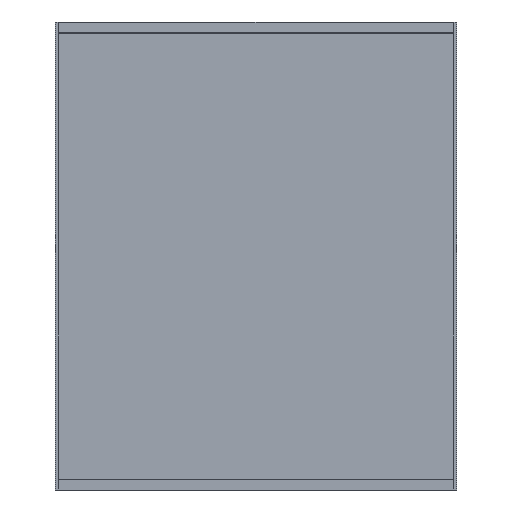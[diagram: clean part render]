
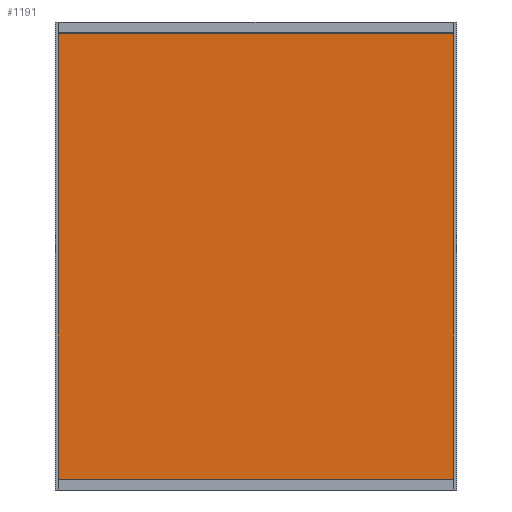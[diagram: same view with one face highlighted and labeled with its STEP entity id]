
A CAD part, front view. The second image highlights one B-rep face of the part: STEP entity #1191.
In plain terms, the highlighted planar face has unit normal (0, -1, 0).
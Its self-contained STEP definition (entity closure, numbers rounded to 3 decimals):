
#66=PLANE('',#1293);
#129=FACE_OUTER_BOUND('',#199,.T.);
#199=EDGE_LOOP('',(#1006,#1007,#1008,#1009));
#319=LINE('',#1857,#457);
#322=LINE('',#1863,#460);
#323=LINE('',#1865,#461);
#324=LINE('',#1866,#462);
#457=VECTOR('',#1539,10.);
#460=VECTOR('',#1544,10.);
#461=VECTOR('',#1545,10.);
#462=VECTOR('',#1546,10.);
#589=VERTEX_POINT('',#1854);
#590=VERTEX_POINT('',#1856);
#592=VERTEX_POINT('',#1862);
#593=VERTEX_POINT('',#1864);
#731=EDGE_CURVE('',#589,#590,#319,.T.);
#734=EDGE_CURVE('',#592,#589,#322,.T.);
#735=EDGE_CURVE('',#593,#592,#323,.T.);
#736=EDGE_CURVE('',#590,#593,#324,.T.);
#1006=ORIENTED_EDGE('',*,*,#734,.F.);
#1007=ORIENTED_EDGE('',*,*,#735,.F.);
#1008=ORIENTED_EDGE('',*,*,#736,.F.);
#1009=ORIENTED_EDGE('',*,*,#731,.F.);
#1191=ADVANCED_FACE('',(#129),#66,.T.);
#1293=AXIS2_PLACEMENT_3D('',#1861,#1542,#1543);
#1539=DIRECTION('',(0.,0.,1.));
#1542=DIRECTION('center_axis',(0.,-1.,0.));
#1543=DIRECTION('ref_axis',(0.,0.,-1.));
#1544=DIRECTION('',(-1.,0.,0.));
#1545=DIRECTION('',(0.,0.,-1.));
#1546=DIRECTION('',(1.,0.,0.));
#1854=CARTESIAN_POINT('',(-298.,-30.75,16.));
#1856=CARTESIAN_POINT('',(-298.,-30.75,683.));
#1857=CARTESIAN_POINT('',(-298.,-30.75,683.));
#1861=CARTESIAN_POINT('Origin',(0.,-30.75,683.));
#1862=CARTESIAN_POINT('',(298.,-30.75,16.));
#1863=CARTESIAN_POINT('',(0.,-30.75,16.));
#1864=CARTESIAN_POINT('',(298.,-30.75,683.));
#1865=CARTESIAN_POINT('',(298.,-30.75,683.));
#1866=CARTESIAN_POINT('',(0.,-30.75,683.));
